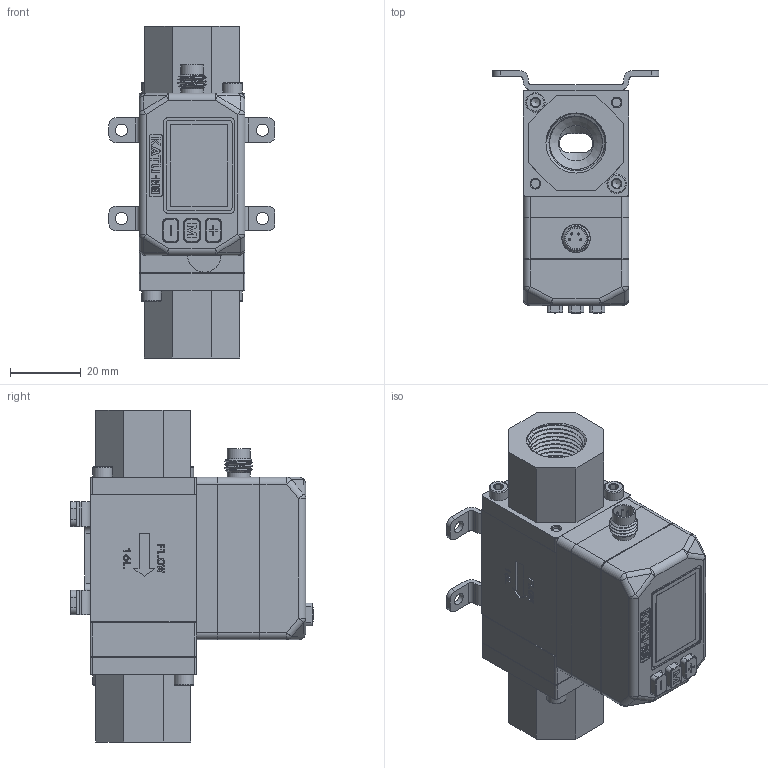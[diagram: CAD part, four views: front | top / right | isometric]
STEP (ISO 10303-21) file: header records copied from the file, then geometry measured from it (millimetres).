
FILE_DESCRIPTION( (''), '2;1');
FILE_NAME( 'QEKJ_16L_R3-8_M12_LED-display_temp-module_bracket.step', '2024-03-14T11:55:46+08:00', (''), (''), '', '', '');
FILE_SCHEMA (('AUTOMOTIVE_DESIGN { 1 0 10303 214 3 1 1 1 }'));
Products named in the file (1): QEKJ 16L_R3-8_M12_LED-display_temp-module_bracket
Bounding box: 47 x 68.6 x 94 mm (x, y, z)
Volume: 46743.3 mm3; surface area: 55144.8 mm2
Topology: 13 solids, 36 shells, 1653 faces, 4262 edges, 2765 vertices
Faces by surface type: plane 927, cylinder 371, extrusion 189, cone 105, torus 33, sphere 22, bspline 6
Full cylindrical faces by diameter (mm): 0.6 x4, 1 x4, 1.2 x3, 1.5 x6, 1.7 x1, 1.8 x1, 2 x8, 2.05 x4, 2.2 x4, 2.3 x4, 2.5 x12, 2.874 x4, 3 x16, 3.5 x11, 4 x1, 4.5 x4, 5 x4, 5.5 x5, 5.8 x2, 6 x1, 6.5 x2, 7.5 x1, 8.5 x1, 10 x3, 12 x1, 14 x1, 15 x20, 19 x2, 20 x2
Entity records: 58104 total; most frequent: CARTESIAN_POINT 16397, ORIENTED_EDGE 7824, DIRECTION 7333, EDGE_CURVE 3912, VECTOR 2745, VERTEX_POINT 2647, LINE 2556, AXIS2_PLACEMENT_3D 2294
